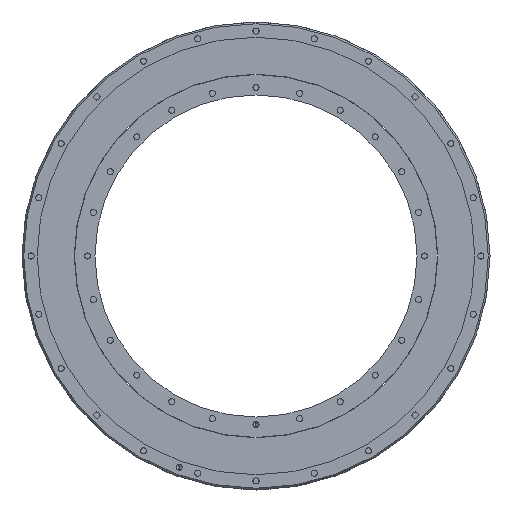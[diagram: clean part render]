
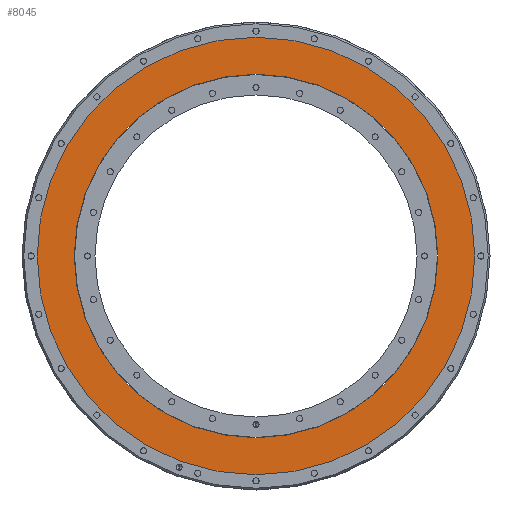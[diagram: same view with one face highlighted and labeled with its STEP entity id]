
A CAD part, front view. The second image highlights one B-rep face of the part: STEP entity #8045.
In plain terms, the highlighted planar face has unit normal (0, -1, 0).
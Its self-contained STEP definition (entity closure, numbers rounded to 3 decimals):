
#150 = DIRECTION ( 'NONE',  ( 0., -1., 0. ) ) ;
#273 = DIRECTION ( 'NONE',  ( 0., 0., -1. ) ) ;
#413 = EDGE_CURVE ( 'NONE', #968, #4259, #579, .T. ) ;
#579 = CIRCLE ( 'NONE', #3635, 180. ) ;
#968 = VERTEX_POINT ( 'NONE', #8781 ) ;
#1684 = ORIENTED_EDGE ( 'NONE', *, *, #413, .T. ) ;
#1784 = CARTESIAN_POINT ( 'NONE',  ( 0., 1., 180. ) ) ;
#2205 = PLANE ( 'NONE',  #3268 ) ;
#2273 = DIRECTION ( 'NONE',  ( 0., 0., -1. ) ) ;
#2713 = VERTEX_POINT ( 'NONE', #10218 ) ;
#2802 = CARTESIAN_POINT ( 'NONE',  ( 0., 1., 0. ) ) ;
#3268 = AXIS2_PLACEMENT_3D ( 'NONE', #10258, #9377, #2273 ) ;
#3635 = AXIS2_PLACEMENT_3D ( 'NONE', #10504, #5207, #6956 ) ;
#3801 = EDGE_CURVE ( 'NONE', #2713, #6611, #4910, .T. ) ;
#4094 = EDGE_LOOP ( 'NONE', ( #1684, #8718 ) ) ;
#4170 = AXIS2_PLACEMENT_3D ( 'NONE', #11214, #5939, #8544 ) ;
#4259 = VERTEX_POINT ( 'NONE', #1784 ) ;
#4284 = FACE_BOUND ( 'NONE', #6070, .T. ) ;
#4910 = CIRCLE ( 'NONE', #4940, 149.5 ) ;
#4940 = AXIS2_PLACEMENT_3D ( 'NONE', #11009, #10928, #273 ) ;
#4985 = FACE_OUTER_BOUND ( 'NONE', #4094, .T. ) ;
#5207 = DIRECTION ( 'NONE',  ( 0., -1., 0. ) ) ;
#5287 = EDGE_CURVE ( 'NONE', #4259, #968, #10153, .T. ) ;
#5923 = CIRCLE ( 'NONE', #4170, 149.5 ) ;
#5939 = DIRECTION ( 'NONE',  ( 0., -1., 0. ) ) ;
#6070 = EDGE_LOOP ( 'NONE', ( #7268, #10281 ) ) ;
#6611 = VERTEX_POINT ( 'NONE', #7746 ) ;
#6956 = DIRECTION ( 'NONE',  ( 0., 0., -1. ) ) ;
#7268 = ORIENTED_EDGE ( 'NONE', *, *, #3801, .F. ) ;
#7746 = CARTESIAN_POINT ( 'NONE',  ( 0., 1., 149.5 ) ) ;
#8045 = ADVANCED_FACE ( 'NONE', ( #4985, #4284 ), #2205, .T. ) ;
#8544 = DIRECTION ( 'NONE',  ( 0., 0., -1. ) ) ;
#8718 = ORIENTED_EDGE ( 'NONE', *, *, #5287, .T. ) ;
#8781 = CARTESIAN_POINT ( 'NONE',  ( 0., 1., -180. ) ) ;
#9093 = DIRECTION ( 'NONE',  ( 0., 0., -1. ) ) ;
#9377 = DIRECTION ( 'NONE',  ( 0., -1., 0. ) ) ;
#9512 = EDGE_CURVE ( 'NONE', #6611, #2713, #5923, .T. ) ;
#10153 = CIRCLE ( 'NONE', #10676, 180. ) ;
#10218 = CARTESIAN_POINT ( 'NONE',  ( 0., 1., -149.5 ) ) ;
#10258 = CARTESIAN_POINT ( 'NONE',  ( 149.5, 1., 0. ) ) ;
#10281 = ORIENTED_EDGE ( 'NONE', *, *, #9512, .F. ) ;
#10504 = CARTESIAN_POINT ( 'NONE',  ( 0., 1., 0. ) ) ;
#10676 = AXIS2_PLACEMENT_3D ( 'NONE', #2802, #150, #9093 ) ;
#10928 = DIRECTION ( 'NONE',  ( 0., -1., 0. ) ) ;
#11009 = CARTESIAN_POINT ( 'NONE',  ( 0., 1., 0. ) ) ;
#11214 = CARTESIAN_POINT ( 'NONE',  ( 0., 1., 0. ) ) ;
